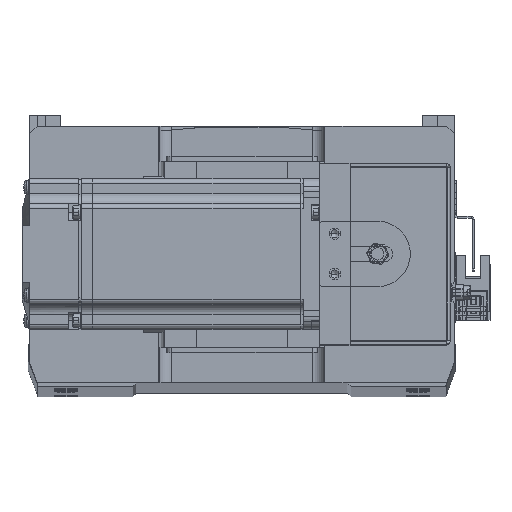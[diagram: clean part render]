
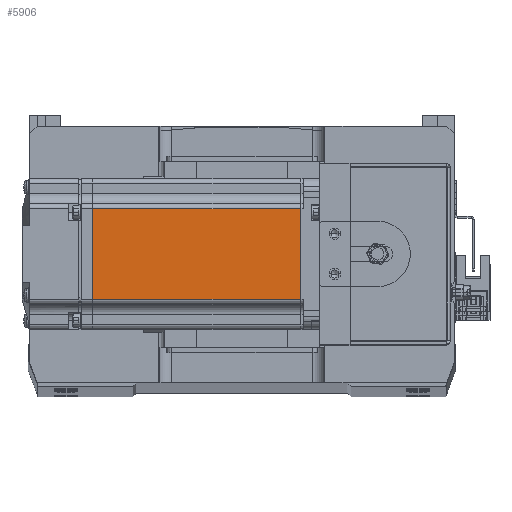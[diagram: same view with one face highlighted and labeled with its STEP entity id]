
A CAD part, top view. The second image highlights one B-rep face of the part: STEP entity #5906.
In plain terms, the highlighted planar face has unit normal (0, 0, 1) as drawn and (0, 1, 0) by its records, which use the part's own axes.
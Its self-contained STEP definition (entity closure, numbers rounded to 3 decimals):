
#283 = EDGE_CURVE ( 'NONE', #22640, #34332, #32746, .T. ) ;
#1433 = ORIENTED_EDGE ( 'NONE', *, *, #8054, .T. ) ;
#2357 = DIRECTION ( 'NONE',  ( 1., 0., 0. ) ) ;
#3324 = DIRECTION ( 'NONE',  ( 0., 1., 0. ) ) ;
#5349 = LINE ( 'NONE', #9239, #17994 ) ;
#5906 = ADVANCED_FACE ( 'NONE', ( #9317 ), #24222, .T. ) ;
#6135 = EDGE_LOOP ( 'NONE', ( #11632, #1433, #14548, #40726 ) ) ;
#6775 = DIRECTION ( 'NONE',  ( 0., 0., 1. ) ) ;
#7253 = DIRECTION ( 'NONE',  ( -1., 0., 0. ) ) ;
#8054 = EDGE_CURVE ( 'NONE', #22640, #13736, #28148, .T. ) ;
#9239 = CARTESIAN_POINT ( 'NONE',  ( -6.5, 30., 18. ) ) ;
#9317 = FACE_OUTER_BOUND ( 'NONE', #6135, .T. ) ;
#11632 = ORIENTED_EDGE ( 'NONE', *, *, #283, .F. ) ;
#13736 = VERTEX_POINT ( 'NONE', #38461 ) ;
#14548 = ORIENTED_EDGE ( 'NONE', *, *, #40352, .T. ) ;
#15663 = VERTEX_POINT ( 'NONE', #37259 ) ;
#17613 = CARTESIAN_POINT ( 'NONE',  ( -6.5, 30., -18. ) ) ;
#17994 = VECTOR ( 'NONE', #2357, 1000. ) ;
#19673 = CARTESIAN_POINT ( 'NONE',  ( -7.75, 30., 18. ) ) ;
#22173 = DIRECTION ( 'NONE',  ( 0., 0., 1. ) ) ;
#22394 = CARTESIAN_POINT ( 'NONE',  ( -7.75, 30., 0. ) ) ;
#22640 = VERTEX_POINT ( 'NONE', #30643 ) ;
#24222 = PLANE ( 'NONE',  #36904 ) ;
#24987 = VECTOR ( 'NONE', #22173, 1000. ) ;
#25153 = DIRECTION ( 'NONE',  ( 0., 0., 1. ) ) ;
#27577 = VECTOR ( 'NONE', #25153, 1000. ) ;
#28148 = LINE ( 'NONE', #17613, #34806 ) ;
#30643 = CARTESIAN_POINT ( 'NONE',  ( -7.75, 30., -18. ) ) ;
#32746 = LINE ( 'NONE', #22394, #24987 ) ;
#34332 = VERTEX_POINT ( 'NONE', #19673 ) ;
#34806 = VECTOR ( 'NONE', #7253, 1000. ) ;
#36216 = LINE ( 'NONE', #39658, #27577 ) ;
#36904 = AXIS2_PLACEMENT_3D ( 'NONE', #45196, #3324, #6775 ) ;
#37259 = CARTESIAN_POINT ( 'NONE',  ( -90.45, 30., 18. ) ) ;
#38461 = CARTESIAN_POINT ( 'NONE',  ( -90.45, 30., -18. ) ) ;
#39658 = CARTESIAN_POINT ( 'NONE',  ( -90.45, 30., 0. ) ) ;
#40352 = EDGE_CURVE ( 'NONE', #13736, #15663, #36216, .T. ) ;
#40726 = ORIENTED_EDGE ( 'NONE', *, *, #40815, .T. ) ;
#40815 = EDGE_CURVE ( 'NONE', #15663, #34332, #5349, .T. ) ;
#45196 = CARTESIAN_POINT ( 'NONE',  ( -6.5, 30., 25. ) ) ;
